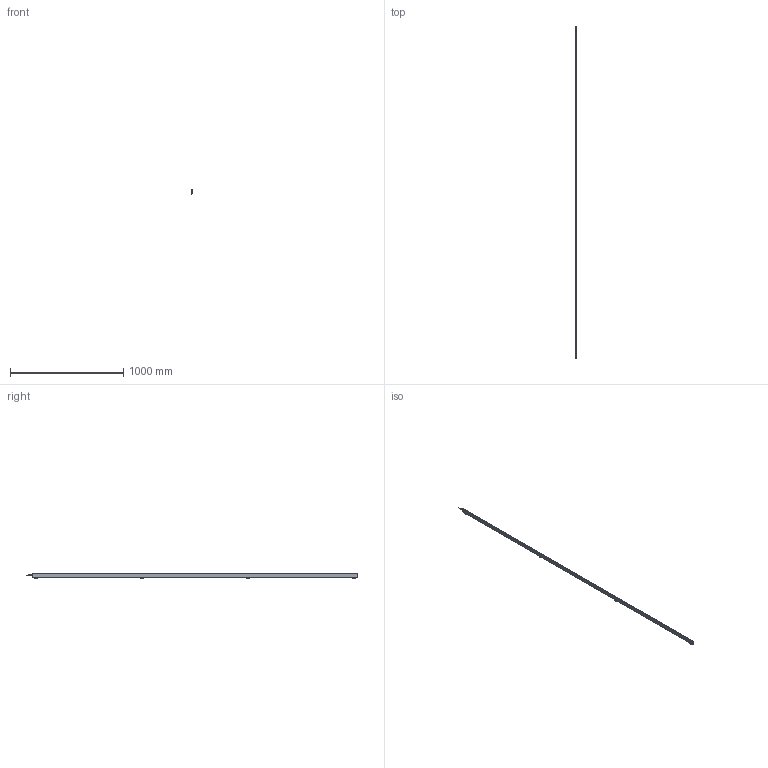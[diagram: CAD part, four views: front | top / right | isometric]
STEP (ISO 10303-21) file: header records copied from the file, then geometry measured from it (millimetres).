
FILE_DESCRIPTION (( 'STEP AP214' ), '1' );
FILE_NAME ('ILG-N-K2-2879mm.STEP', '2017-07-10T14:16:20', ( '' ), ( '' ), 'SwSTEP 2.0', 'SolidWorks 2016', '' );
FILE_SCHEMA (( 'AUTOMOTIVE_DESIGN' ));
Length unit declared in the file: millimetre
Products named in the file (1): ILG-N-K2-2879mm
Bounding box: 10.2 x 2932.5 x 42.41 mm (x, y, z)
Surface area: 479869.5 mm2 (no closed solid volume)
Topology: 0 solids, 17 shells, 822 faces, 2121 edges, 1329 vertices
Faces by surface type: plane 379, cylinder 305, cone 90, bspline 32, torus 16
Entity records: 36121 total; most frequent: CARTESIAN_POINT 7158, ORIENTED_EDGE 4195, DIRECTION 4057, EDGE_CURVE 2105, AXIS2_PLACEMENT_3D 1476, VERTEX_POINT 1329, LINE 1105, VECTOR 1105
